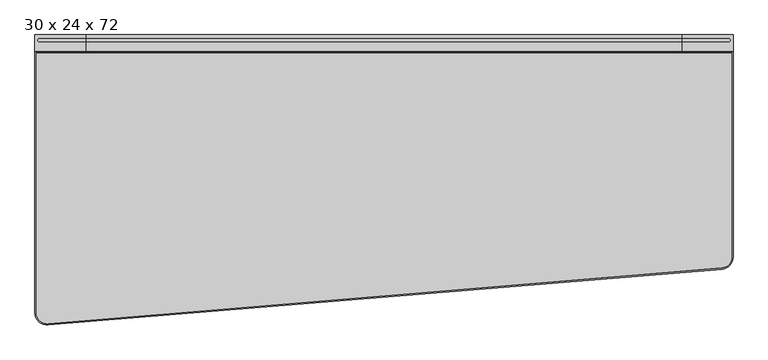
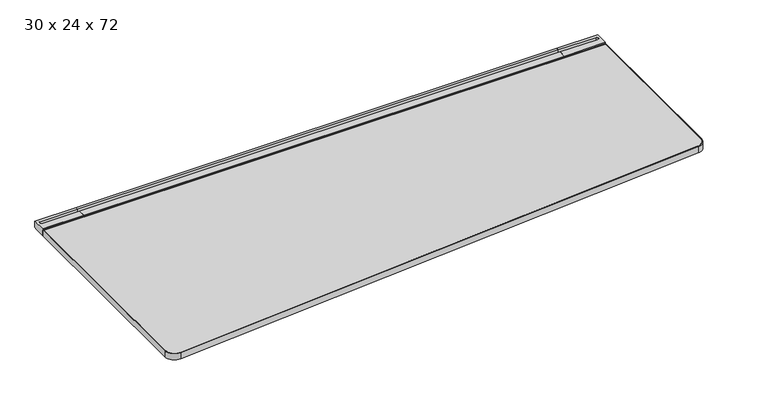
"""IFC4 building model written with IfcOpenShell, lengths in millimetres: furniture geometry, Steelcase - C Scape - Desking - Left Hand Tapered : 30 x 24 x 72."""

from ifc_helpers import new_model, si_unit, point, frame, frame_2d, origin, place, context, project, spatial, polyline, circle_curve, trimmed, segment, composite_curve, outline, extrude, faceted_brep, source, transform, mapped, element, save
from ifc_brep_helpers import plane_surface, cylinder_surface, revolved_surface, advanced_brep


def furniture_30_x_24_x_72_815ae0e8(model_context):
    return source(origin(), model_context, "Body", "SolidModel", [
        advanced_brep(
        [(134.6072876, -45.3135132, 703.3768), (134.6072876, -4.0331902, 703.3768), (134.6072876, -3.2278472, 705.1038636), (134.6072876, 0.0, 705.1038636), (134.6072876, 0.0, 725.932), (134.6072876, -8.5111084, 725.932), (134.6072876, -8.5111084, 713.486), (134.6072876, -19.3290527, 713.486), (134.6072876, -19.3290527, 725.932), (134.6072876, -42.7750923, 725.932), (134.6072876, -42.7750923, 722.4268341), (134.6072876, -45.3135132, 722.4268341), (1.5875, -45.3135132, 703.3768), (1.5875, -45.3135132, 722.4268341), (1.5875, -42.7750923, 722.4268341), (1.5875, -42.7750923, 725.932), (1.5875, 0.0, 725.932), (1.5875, 0.0, 705.1038636), (1.5875, -3.2278472, 705.1038636), (1.5875, -4.0331902, 703.3768), (13.3495728, -19.3290527, 725.932), (13.3495728, -8.5111084, 725.932), (13.3495728, -8.5111084, 713.486), (13.3495728, -19.3290527, 713.486)],
        [
            (0, 1),
            (1, 2),
            (2, 3),
            (3, 4),
            (4, 5),
            (5, 6),
            (6, 7),
            (7, 8),
            (8, 9),
            (9, 10),
            (10, 11),
            (11, 0),
            (12, 13),
            (13, 14),
            (14, 15),
            (15, 16),
            (16, 17),
            (17, 18),
            (18, 19),
            (19, 12),
            (0, 12),
            (19, 1),
            (18, 2),
            (17, 3),
            (16, 4),
            (15, 9),
            (8, 20),
            (20, 21, circle_curve(frame((13.3495728, -13.9200806, 725.932), z_axis=(0.0, 0.0, -1.0), x_axis=(1.0, 0.0, 0.0)), 5.4089722)),
            (21, 5),
            (14, 10),
            (13, 11),
            (6, 22),
            (22, 23, circle_curve(frame((13.3495728, -13.9200806, 713.486), z_axis=(0.0, 0.0, 1.0), x_axis=(1.0, 0.0, 0.0)), 5.4089722)),
            (23, 7),
            (21, 22),
            (20, 23),
        ],
        [
            plane_surface(frame((134.6072876, -45.3135132, 703.3768), z_axis=(1.0, 0.0, 0.0), x_axis=(0.0, 1.0, 0.0))),
            plane_surface(frame((1.5875, -45.3135132, 703.3768), z_axis=(-1.0, 0.0, 0.0), x_axis=(0.0, -1.0, 0.0))),
            plane_surface(frame((134.6072876, -45.3135132, 703.3768), z_axis=(0.0, 0.0, -1.0), x_axis=(-1.0, 0.0, 0.0))),
            plane_surface(frame((134.6072876, -4.0331902, 703.3768), z_axis=(0.0, 0.9063077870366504, -0.4226182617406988), x_axis=(-1.0, 0.0, 0.0))),
            plane_surface(frame((134.6072876, -3.2278472, 705.1038636), z_axis=(0.0, 0.0, -1.0), x_axis=(-1.0, 0.0, 0.0))),
            plane_surface(frame((134.6072876, 0.0, 705.1038636), z_axis=(0.0, 1.0, 0.0), x_axis=(-1.0, 0.0, 0.0))),
            plane_surface(frame((134.6072876, 0.0, 725.932), z_axis=(0.0, 0.0, 1.0), x_axis=(-1.0, 0.0, 0.0))),
            plane_surface(frame((134.6072876, -42.7750923, 725.932), z_axis=(0.0, -1.0, 0.0), x_axis=(-1.0, 0.0, 0.0))),
            plane_surface(frame((134.6072876, -42.7750923, 722.4268341), z_axis=(0.0, 0.0, 1.0), x_axis=(-1.0, 0.0, 0.0))),
            plane_surface(frame((134.6072876, -45.3135132, 722.4268341), z_axis=(0.0, -1.0, 0.0), x_axis=(-1.0, 0.0, 0.0))),
            plane_surface(frame((13.3495728, -8.5111084, 713.486), z_axis=(0.0, 0.0, 1.0), x_axis=(1.0, 0.0, 0.0))),
            plane_surface(frame((134.6072876, -8.5111084, 731.2180541), z_axis=(0.0, -1.0, 0.0), x_axis=(0.0, 0.0, -1.0))),
            revolved_surface(polyline([(18.758545, -13.9200806, 725.932), (18.758545, -13.9200806, 713.486)]), (13.3495728, -13.9200806, 713.486), (0.0, 0.0, 1.0)),
            plane_surface(frame((13.3495728, -19.3290527, 731.2180541), z_axis=(0.0, 1.0, 0.0), x_axis=(0.0, 0.0, -1.0))),
        ],
        [
            (0, [[1, 2, 3, 4, 5, 6, 7, 8, 9, 10, 11, 12]]),
            (1, [[13, 14, 15, 16, 17, 18, 19, 20]]),
            (2, [[-1, 21, -20, 22]]),
            (3, [[-2, -22, -19, 23]]),
            (4, [[-3, -23, -18, 24]]),
            (5, [[-4, -24, -17, 25]]),
            (6, [[-16, 26, -9, 27, 28, 29, -5, -25]]),
            (7, [[-10, -26, -15, 30]]),
            (8, [[-11, -30, -14, 31]]),
            (9, [[-12, -31, -13, -21]]),
            (10, [[32, 33, 34, -7]]),
            (11, [[-32, -6, -29, 35]]),
            (12, [[-33, -35, -28, 36]]),
            (13, [[-34, -36, -27, -8]]),
        ],
    ),
        faceted_brep([(20.6382632, -565.0752923, 700.7093833), (34.9133728, -565.0752923, 693.4200291), (116.3525879, -565.0752923, 693.4200291), (118.9731301, -565.0752923, 679.3263935), (134.6072876, -565.0752923, 679.3263935), (134.6072876, -565.0752923, 703.3768), (20.6382632, -565.0752923, 703.3768), (20.6382632, -4.0331902, 700.7093833), (20.6382632, -4.0331902, 703.3768), (134.6072876, -4.0331902, 703.3768), (134.6072876, -4.0331902, 629.3866), (128.2588347, -4.0331902, 629.3866), (116.3525879, -4.0331902, 693.4200291), (34.9133728, -4.0331902, 693.4200291), (128.2588347, -364.1172546, 629.3866), (121.1384051, -376.5599397, 667.6812472), (134.6072876, -364.1172546, 629.3866), (134.6072876, -376.5599397, 667.6812472)], [[[0, 1, 2, 3, 4, 5, 6]], [[7, 8, 9, 10, 11, 12, 13]], [[1, 0, 7, 13]], [[2, 1, 13, 12]], [[12, 11, 14, 15, 3, 2]], [[11, 10, 16, 14]], [[10, 9, 5, 4, 17, 16]], [[6, 5, 9, 8]], [[0, 6, 8, 7]], [[15, 17, 4, 3]], [[17, 15, 14, 16]]]),
        extrude(outline(composite_curve([segment(polyline([(-293.5216187, 657.3775839), (-559.0022133, 680.1371551)]), True, "CONTINUOUS"), segment(trimmed(circle_curve(frame_2d((-558.7581271, 682.9843154)), 2.8576039), [point((-559.0022133, 680.1371551))], [point((-561.5383043, 682.3236226))], False, "CARTESIAN"), True, "CONTINUOUS"), segment(polyline([(-561.5383043, 682.3236226), (-566.0887542, 701.4717905), (-557.8334441, 701.4717905), (-557.8334441, 703.3768), (-442.6683806, 703.3768), (-442.6683806, 696.3917953), (-318.2108611, 696.3917953), (-318.2108611, 703.3768), (-293.5216187, 703.3768), (-293.5216187, 657.3775839)]), True, "CONTINUOUS")], self_intersect=False)), frame((877.824, 0.0, 0.0), z_axis=(1.0, 0.0, 0.0), x_axis=(0.0, 1.0, 0.0)), (0.0, 0.0, 1.0), 73.152),
        advanced_brep(
        [(1694.1927124, -45.3135132, 703.3768), (1694.1927124, -45.3135132, 722.4268341), (1694.1927124, -42.7750923, 722.4268341), (1694.1927124, -42.7750923, 725.932), (1694.1927124, -19.3290527, 725.932), (1694.1927124, -19.3290527, 713.486), (1694.1927124, -8.5111084, 713.486), (1694.1927124, -8.5111084, 725.932), (1694.1927124, 0.0, 725.932), (1694.1927124, 0.0, 705.1038636), (1694.1927124, -3.2278472, 705.1038636), (1694.1927124, -4.0331902, 703.3768), (1827.2125, -45.3135132, 703.3768), (1827.2125, -4.0331902, 703.3768), (1827.2125, -3.2278472, 705.1038636), (1827.2125, 0.0, 705.1038636), (1827.2125, 0.0, 725.932), (1827.2125, -42.7750923, 725.932), (1827.2125, -42.7750923, 722.4268341), (1827.2125, -45.3135132, 722.4268341), (1815.4504272, -8.5111084, 725.932), (1815.4504272, -19.3290527, 725.932), (1815.4504272, -19.3290527, 713.486), (1815.4504272, -8.5111084, 713.486)],
        [
            (0, 1),
            (1, 2),
            (2, 3),
            (3, 4),
            (4, 5),
            (5, 6),
            (6, 7),
            (7, 8),
            (8, 9),
            (9, 10),
            (10, 11),
            (11, 0),
            (12, 13),
            (13, 14),
            (14, 15),
            (15, 16),
            (16, 17),
            (17, 18),
            (18, 19),
            (19, 12),
            (11, 13),
            (12, 0),
            (10, 14),
            (9, 15),
            (8, 16),
            (7, 20),
            (20, 21, circle_curve(frame((1815.4504272, -13.9200806, 725.932), z_axis=(0.0, 0.0, -1.0), x_axis=(-1.0, 0.0, 0.0)), 5.4089722)),
            (21, 4),
            (3, 17),
            (2, 18),
            (1, 19),
            (5, 22),
            (22, 23, circle_curve(frame((1815.4504272, -13.9200806, 713.486), z_axis=(0.0, 0.0, 1.0), x_axis=(-1.0, 0.0, 0.0)), 5.4089722)),
            (23, 6),
            (23, 20),
            (22, 21),
        ],
        [
            plane_surface(frame((1694.1927124, -45.3135132, 703.3768), z_axis=(-1.0, 0.0, 0.0), x_axis=(0.0, 1.0, 0.0))),
            plane_surface(frame((1827.2125, -45.3135132, 703.3768), z_axis=(1.0, 0.0, 0.0), x_axis=(0.0, -1.0, 0.0))),
            plane_surface(frame((1694.1927124, -45.3135132, 703.3768), z_axis=(0.0, 0.0, -1.0), x_axis=(1.0, 0.0, 0.0))),
            plane_surface(frame((1694.1927124, -4.0331902, 703.3768), z_axis=(0.0, 0.9063077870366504, -0.4226182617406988), x_axis=(1.0, 0.0, 0.0))),
            plane_surface(frame((1694.1927124, -3.2278472, 705.1038636), z_axis=(0.0, 0.0, -1.0), x_axis=(1.0, 0.0, 0.0))),
            plane_surface(frame((1694.1927124, 0.0, 705.1038636), z_axis=(0.0, 1.0, 0.0), x_axis=(1.0, 0.0, 0.0))),
            plane_surface(frame((1694.1927124, 0.0, 725.932), z_axis=(0.0, 0.0, 1.0), x_axis=(1.0, 0.0, 0.0))),
            plane_surface(frame((1694.1927124, -42.7750923, 725.932), z_axis=(0.0, -1.0, 0.0), x_axis=(1.0, 0.0, 0.0))),
            plane_surface(frame((1694.1927124, -42.7750923, 722.4268341), z_axis=(0.0, 0.0, 1.0), x_axis=(1.0, 0.0, 0.0))),
            plane_surface(frame((1694.1927124, -45.3135132, 722.4268341), z_axis=(0.0, -1.0, 0.0), x_axis=(1.0, 0.0, 0.0))),
            plane_surface(frame((1815.4504272, -8.5111084, 713.486), z_axis=(0.0, 0.0, 1.0), x_axis=(-1.0, 0.0, 0.0))),
            plane_surface(frame((1694.1927124, -8.5111084, 731.2180541), z_axis=(0.0, -1.0, 0.0), x_axis=(0.0, 0.0, -1.0))),
            revolved_surface(polyline([(1810.0414549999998, -13.9200806, 725.932), (1810.0414549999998, -13.9200806, 713.486)]), (1815.4504272, -13.9200806, 713.486), (0.0, 0.0, 1.0)),
            plane_surface(frame((1815.4504272, -19.3290527, 731.2180541), z_axis=(0.0, 1.0, 0.0), x_axis=(0.0, 0.0, -1.0))),
        ],
        [
            (0, [[1, 2, 3, 4, 5, 6, 7, 8, 9, 10, 11, 12]]),
            (1, [[13, 14, 15, 16, 17, 18, 19, 20]]),
            (2, [[21, -13, 22, -12]]),
            (3, [[23, -14, -21, -11]]),
            (4, [[24, -15, -23, -10]]),
            (5, [[25, -16, -24, -9]]),
            (6, [[-25, -8, 26, 27, 28, -4, 29, -17]]),
            (7, [[30, -18, -29, -3]]),
            (8, [[31, -19, -30, -2]]),
            (9, [[-22, -20, -31, -1]]),
            (10, [[-6, 32, 33, 34]]),
            (11, [[35, -26, -7, -34]]),
            (12, [[36, -27, -35, -33]]),
            (13, [[-5, -28, -36, -32]]),
        ],
    ),
        faceted_brep([(1808.1617368, -565.0752923, 700.7093833), (1808.1617368, -565.0752923, 703.3768), (1694.1927124, -565.0752923, 703.3768), (1694.1927124, -565.0752923, 679.3263935), (1709.8268699, -565.0752923, 679.3263935), (1712.4474121, -565.0752923, 693.4200291), (1793.8866272, -565.0752923, 693.4200291), (1808.1617368, -4.0331902, 700.7093833), (1793.8866272, -4.0331902, 693.4200291), (1712.4474121, -4.0331902, 693.4200291), (1700.5411653, -4.0331902, 629.3866), (1694.1927124, -4.0331902, 629.3866), (1694.1927124, -4.0331902, 703.3768), (1808.1617368, -4.0331902, 703.3768), (1707.6615949, -376.5599397, 667.6812472), (1700.5411653, -364.1172546, 629.3866), (1694.1927124, -364.1172546, 629.3866), (1694.1927124, -376.5599397, 667.6812472)], [[[0, 1, 2, 3, 4, 5, 6]], [[7, 8, 9, 10, 11, 12, 13]], [[6, 8, 7, 0]], [[5, 9, 8, 6]], [[9, 5, 4, 14, 15, 10]], [[10, 15, 16, 11]], [[11, 16, 17, 3, 2, 12]], [[1, 13, 12, 2]], [[0, 7, 13, 1]], [[14, 4, 3, 17]], [[17, 16, 15, 14]]]),
        extrude(outline(polyline([(-8.5111084, 725.932), (0.0, 725.932), (0.0, 705.1038636), (-3.2278472, 705.1038636), (-4.0331902, 703.3768), (-45.3135132, 703.3768), (-45.3135132, 722.4268341), (-42.7750923, 722.4268341), (-42.7750923, 725.932), (-19.3290527, 725.932), (-19.3290527, 713.486), (-8.5111084, 713.486), (-8.5111084, 725.932)])), frame((134.6072876, 0.0, 0.0), z_axis=(1.0, 0.0, 0.0), x_axis=(0.0, 1.0, 0.0)), (0.0, 0.0, 1.0), 1559.5854248),
        extrude(outline(polyline([(1694.1927124, -4.0331902), (1694.1927124, -293.5216187), (134.6072876, -293.5216187), (134.6072876, -4.0331902), (1694.1927124, -4.0331902)])), frame((0.0, 0.0, 629.3866), z_axis=(0.0, 0.0, 1.0), x_axis=(1.0, 0.0, 0.0)), (0.0, 0.0, 1.0), 73.9902),
        extrude(outline(composite_curve([segment(polyline([(1824.1645, -48.3660689), (1824.1645, -581.0845942)]), True, "CONTINUOUS"), segment(trimmed(circle_curve(frame_2d((1794.859299, -581.0845942)), 29.305201), [point((1824.1645, -581.0845942))], [point((1797.7931119, -610.2425699))], False, "CARTESIAN"), True, "CONTINUOUS"), segment(polyline([(1797.7931119, -610.2425699), (36.8381677, -756.7577516)]), True, "CONTINUOUS"), segment(trimmed(circle_curve(frame_2d((33.9076624, -727.6326485)), 29.2721624), [point((36.8381677, -756.7577516))], [point((4.6355, -727.6326485))], False, "CARTESIAN"), True, "CONTINUOUS"), segment(polyline([(4.6355, -727.6326485), (4.6355, -48.3660689), (1824.1645, -48.3660689)]), True, "CONTINUOUS")], self_intersect=False)), frame((0.0, 0.0, 703.3768), z_axis=(0.0, 0.0, 1.0), x_axis=(1.0, 0.0, 0.0)), (0.0, 0.0, 1.0), 20.5232),
        advanced_brep(
        [(4.6384766, -48.3660689, 703.3768), (4.6384766, -48.3660689, 723.9), (4.6384766, -727.9545671, 723.9), (4.6384766, -727.9545671, 703.3768), (1.5875, -45.3150923, 723.9), (1.5875, -45.3150923, 703.3768), (1.5875, -727.9545671, 703.3768), (1.5875, -727.9545671, 723.9), (36.1990786, -756.5105703, 703.3768), (36.1990786, -756.5105703, 723.9), (36.5032914, -759.5463424, 723.9), (36.5032914, -759.5463424, 703.3768), (1798.376303, -610.4681922, 723.9), (1798.376303, -610.4681922, 703.3768), (1798.6282914, -613.5087448, 703.3768), (1798.6282914, -613.5087448, 723.9), (1824.1615234, -581.9169695, 703.3768), (1824.1615234, -581.9169695, 723.9), (1827.2125, -581.9169695, 703.3768), (1827.2125, -45.3150923, 703.3768), (1824.1615234, -48.3660689, 703.3768), (1827.2125, -581.9169695, 723.9), (1827.2125, -45.3150923, 723.9), (1824.1615234, -48.3660689, 723.9)],
        [
            (0, 1),
            (1, 2),
            (2, 3),
            (3, 0),
            (4, 5),
            (5, 6),
            (6, 7),
            (7, 4),
            (8, 3, circle_curve(frame((33.3375, -727.9545671, 703.3768), z_axis=(0.0, 0.0, -1.0), x_axis=(-1.0, 0.0, 0.0)), 28.6990234)),
            (2, 9, circle_curve(frame((33.3375, -727.9545671, 723.9), z_axis=(0.0, 0.0, 1.0), x_axis=(-1.0, 0.0, 0.0)), 28.6990234)),
            (9, 8),
            (10, 7, circle_curve(frame((33.3375, -727.9545671, 723.9), z_axis=(0.0, 0.0, -1.0), x_axis=(-1.0, 0.0, 0.0)), 31.75)),
            (6, 11, circle_curve(frame((33.3375, -727.9545671, 703.3768), z_axis=(0.0, 0.0, 1.0), x_axis=(-1.0, 0.0, 0.0)), 31.75)),
            (11, 10),
            (9, 12),
            (12, 13),
            (13, 8),
            (11, 14),
            (14, 15),
            (15, 10),
            (16, 13, circle_curve(frame((1795.4625, -581.9169695, 703.3768), z_axis=(0.0, 0.0, -1.0), x_axis=(0.09970996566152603, -0.9950165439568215, 0.0)), 28.6990234)),
            (12, 17, circle_curve(frame((1795.4625, -581.9169695, 723.9), z_axis=(0.0, 0.0, 1.0), x_axis=(0.09970996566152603, -0.9950165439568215, 0.0)), 28.6990234)),
            (17, 16),
            (18, 14, circle_curve(frame((1795.4625, -581.9169695, 703.3768), z_axis=(0.0, 0.0, -1.0), x_axis=(0.09970996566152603, -0.9950165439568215, 0.0)), 31.75)),
            (5, 19),
            (19, 18),
            (16, 20),
            (20, 0),
            (21, 15, circle_curve(frame((1795.4625, -581.9169695, 723.9), z_axis=(0.0, 0.0, -1.0), x_axis=(0.09970996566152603, -0.9950165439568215, 0.0)), 31.75)),
            (18, 21),
            (21, 22),
            (22, 4),
            (1, 23),
            (23, 17),
            (23, 20),
            (19, 22),
        ],
        [
            plane_surface(frame((4.6384766, -48.3660689, 723.9), z_axis=(1.0, 0.0, 0.0), x_axis=(0.0, -1.0, 0.0))),
            plane_surface(frame((1.5875, -45.3150923, 703.3768), z_axis=(-1.0, 0.0, 0.0), x_axis=(0.0, -1.0, 0.0))),
            revolved_surface(polyline([(4.638476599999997, -727.9545671, 723.9), (4.638476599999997, -727.9545671, 703.3768)]), (33.3375, -727.9545671, 0.0), (0.0, 0.0, 1.0)),
            cylinder_surface(frame((33.3375, -727.9545671, 0.0), z_axis=(0.0, 0.0, 1.0), x_axis=(-1.0, 0.0, 0.0)), 31.75),
            plane_surface(frame((36.1990337, -756.5101217, 723.9), z_axis=(-0.082592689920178, 0.99658338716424, 0.0), x_axis=(0.99658338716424, 0.082592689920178, 0.0))),
            plane_surface(frame((36.5032914, -759.5463424, 703.3768), z_axis=(0.08259268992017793, -0.99658338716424, 0.0), x_axis=(0.99658338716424, 0.08259268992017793, 0.0))),
            revolved_surface(polyline([(1798.3240786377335, -610.472972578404, 723.9), (1798.3240786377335, -610.472972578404, 703.3768)]), (1795.4625, -581.9169695, 0.0), (0.0, 0.0, 1.0)),
            plane_surface(frame((1795.4625, -581.9169695, 703.3768), z_axis=(0.0, 0.0, -1.0), x_axis=(0.09970996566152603, -0.9950165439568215, 0.0))),
            cylinder_surface(frame((1795.4625, -581.9169695, 0.0), z_axis=(0.0, 0.0, 1.0), x_axis=(0.09970996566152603, -0.9950165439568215, 0.0)), 31.75),
            plane_surface(frame((1795.4625, -581.9169695, 723.9), z_axis=(0.0, 0.0, 1.0), x_axis=(0.09970996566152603, -0.9950165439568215, 0.0))),
            plane_surface(frame((1824.1615234, -581.9169695, 723.9), z_axis=(-1.0, 0.0, 0.0), x_axis=(0.0, 1.0, 0.0))),
            plane_surface(frame((1827.2125, -581.9169695, 703.3768), z_axis=(1.0, 0.0, 0.0), x_axis=(0.0, 1.0, 0.0))),
            plane_surface(frame((1824.1615234, -48.3660689, 723.9), z_axis=(0.0, -1.0, 0.0), x_axis=(-1.0, 0.0, 0.0))),
            plane_surface(frame((1827.2125, -45.3150923, 703.3768), z_axis=(0.0, 1.0, 0.0), x_axis=(-1.0, 0.0, 0.0))),
        ],
        [
            (0, [[1, 2, 3, 4]]),
            (1, [[5, 6, 7, 8]]),
            (2, [[9, -3, 10, 11]]),
            (3, [[12, -7, 13, 14]]),
            (4, [[-11, 15, 16, 17]]),
            (5, [[-14, 18, 19, 20]]),
            (6, [[21, -16, 22, 23]]),
            (7, [[24, -18, -13, -6, 25, 26], [-9, -17, -21, 27, 28, -4]]),
            (8, [[29, -19, -24, 30]]),
            (9, [[-12, -20, -29, 31, 32, -8], [-22, -15, -10, -2, 33, 34]]),
            (10, [[-23, -34, 35, -27]]),
            (11, [[-30, -26, 36, -31]]),
            (12, [[-35, -33, -1, -28]]),
            (13, [[-36, -25, -5, -32]]),
        ],
    ),
    ])


if __name__ == "__main__":
    model = new_model("IFC4")
    model_context = context("Model", 3, world=origin())
    ifc_project = project(units=[si_unit("LENGTHUNIT", "METRE", prefix="MILLI")], contexts=[model_context])
    site = spatial("IfcSite", under=ifc_project)
    building = spatial("IfcBuilding", under=site)
    placement = place(None, origin())
    furniture_30_x_24_x_72_shape = furniture_30_x_24_x_72_815ae0e8(model_context)
    element("IfcFurniture", 1, ObjectType="Steelcase - C Scape - Desking - Left Hand Tapered : 30 x 24 x 72", at=placement, inside=building, context=model_context, shape_type="MappedRepresentation", body=[
        mapped(furniture_30_x_24_x_72_shape, transform((0.0, 0.0, 0.0), x_axis=(1.0, 0.0, 0.0), y_axis=(0.0, 1.0, 0.0), z_axis=(0.0, 0.0, 1.0))),
    ])
    save(model, "model.ifc")
